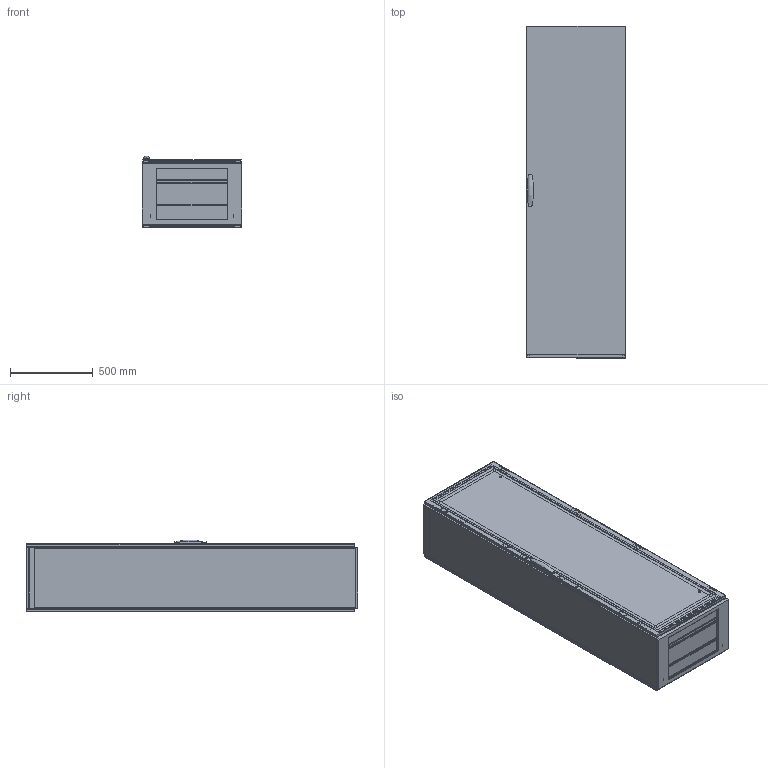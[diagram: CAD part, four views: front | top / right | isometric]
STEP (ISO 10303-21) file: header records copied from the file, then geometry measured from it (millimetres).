
FILE_DESCRIPTION(/* description */ ('STEP AP203'),/* implementation_level */ '2;1');
FILE_NAME(/* name */ 'MKS20064R5(0)',/* time_stamp */ '2024-02-22T16:18:37+01:00',/* author */ ('License CC BY-ND 4.0'),/* organization */ ('CADENAS'),/* preprocessor_version */ 'ST-DEVELOPER v19.3',/* originating_system */ 'PARTsolutions',/* authorisation */ ' ');
FILE_SCHEMA (('CONFIG_CONTROL_DESIGN'));
Length unit declared in the file: millimetre
Products named in the file (18): MKS20064R5(0); MKS20064R5(0)_Frame; CRPK06(0)_Rear Panel Mounting Kit; CRP2006R5(0)_Rear Panel; DNMK02(0)_Hinge Right; DN2006R5(0)_Plain door; LSSDXXXX(0)_Lock; LSSD2000(0)_Espagnolette Top; LSSD2000(0)_Espagnolette Bottom; DNMK01(0)_Rod catches; MPA06(0)_Mounting Plate Brackets 1; MP2006(0)_P1; MPA06(0)_Mounting Plate Brackets 2; MPA06(0)_Mounting Plate Brackets 3; MPA06(0)_Mounting Plate Brackets 4; CCR064R5(0)_MKD Roof plate; CBP060(0)_Bottom Plate 1; CBP060(0)_Bottom Plate 2
Assembly tree (31 placements, depth 2):
  MKS20064R5(0)
    MKS20064R5(0)_Frame
    CRPK06(0)_Rear Panel Mounting Kit  x8
    CRP2006R5(0)_Rear Panel
    DNMK02(0)_Hinge Right  x4
    DN2006R5(0)_Plain door
    LSSDXXXX(0)_Lock
    LSSD2000(0)_Espagnolette Top
    LSSD2000(0)_Espagnolette Bottom
    DNMK01(0)_Rod catches  x4
    MPA06(0)_Mounting Plate Brackets 1
    MP2006(0)_P1
    MPA06(0)_Mounting Plate Brackets 2
    MPA06(0)_Mounting Plate Brackets 3
    MPA06(0)_Mounting Plate Brackets 4
    CCR064R5(0)_MKD Roof plate
    CBP060(0)_Bottom Plate 1  x2
    CBP060(0)_Bottom Plate 2
Bounding box: 600 x 2005 x 434.9 mm (x, y, z)
Volume: 21915802 mm3; surface area: 13584213 mm2
Topology: 31 solids, 31 shells, 1329 faces, 3453 edges, 2279 vertices
Faces by surface type: plane 1148, cylinder 122, cone 58, torus 1
Full cylindrical faces by diameter (mm): 2.55 x2, 5 x18, 5.2 x2, 6 x6, 7 x6, 7.4 x4, 8 x18, 9 x2, 10 x8, 13 x2, 14 x4
Entity records: 30620 total; most frequent: CARTESIAN_POINT 5295, ORIENTED_EDGE 4928, DIRECTION 4750, EDGE_CURVE 2464, LINE 2180, VECTOR 2180, VERTEX_POINT 1680, AXIS2_PLACEMENT_3D 1285
